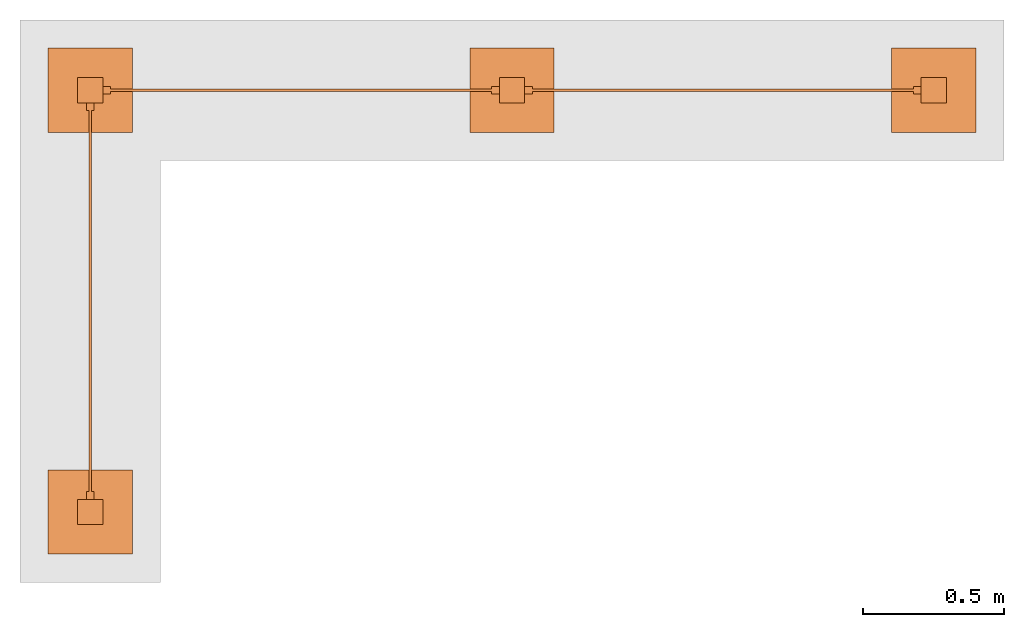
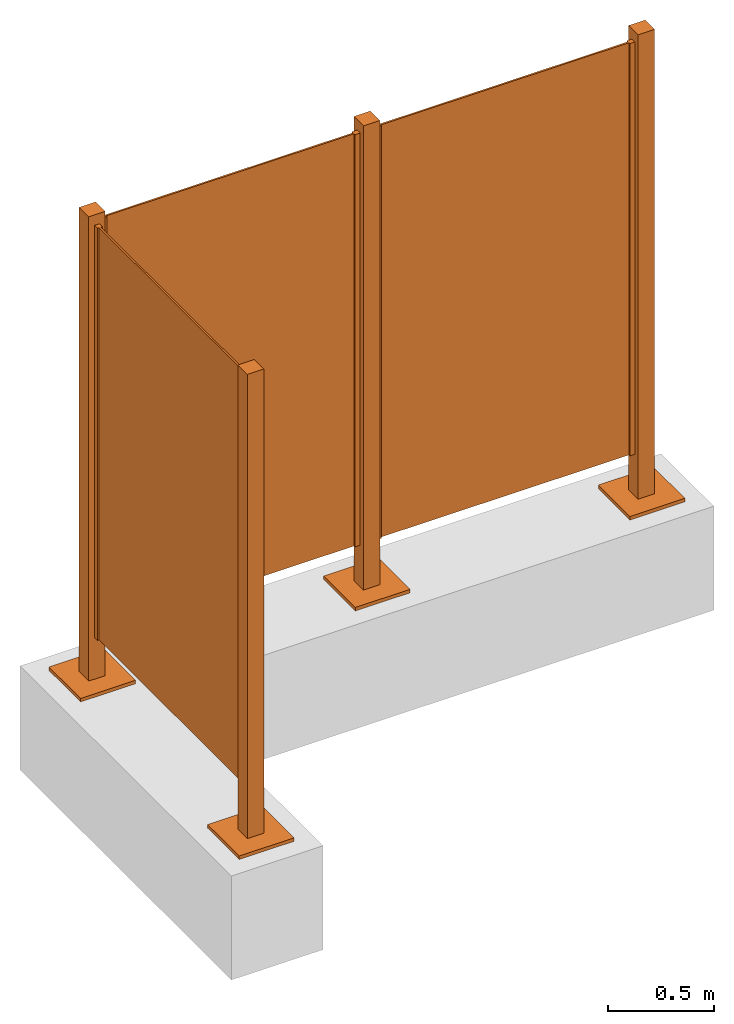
# One storey, part 2 of 2: 1 proxy.
"""IFC4 building model written with IfcOpenShell, lengths in metres."""

import ifcopenshell
import ifcopenshell.guid

model = None  # the IFC model being written
_history = None  # IfcOwnerHistory: only IFC2X3 demands one
_inside = {}  # id of a spatial element -> (the spatial element, [elements in it])
_under = {}  # id of a project, library or spatial element -> (it, [spatial elements below it])
_declared = {}  # id of a project -> (the project, [libraries it declares])
_typed = {}  # id of a type object -> (the type object, [elements of that type])
_made_of = {}  # id of a material, layer set ... -> (it, [elements and type objects made of it])


def new_model(schema):
    """Start an empty IFC model of exactly this schema.

    Asked for "IFC4X3", IfcOpenShell would pick the latest addendum, in which some entities
    have other attributes; the version numbers below select the first issue.
    IFC2X3 requires an IfcOwnerHistory on every rooted entity: one is made here for all.
    """
    global model, _history
    if schema == "IFC4X3":
        model = ifcopenshell.file(schema_version=(4, 3, 0, 0))
    else:
        model = ifcopenshell.file(schema=schema)
    _inside.clear()
    _under.clear()
    _declared.clear()
    _typed.clear()
    _made_of.clear()
    _history = None
    if model.schema == "IFC2X3":
        org = make("IfcOrganization", Name="unknown")
        user = make(
            "IfcPersonAndOrganization",
            ThePerson=make("IfcPerson", FamilyName="unknown"),
            TheOrganization=org,
        )
        app = make(
            "IfcApplication",
            ApplicationDeveloper=org,
            Version="unknown",
            ApplicationFullName="unknown",
            ApplicationIdentifier="unknown",
        )
        _history = make(
            "IfcOwnerHistory",
            OwningUser=user,
            OwningApplication=app,
            ChangeAction="ADDED",
            CreationDate=0,
        )
    return model


def make(cls, **values):
    """One entity of the class cls with the attributes given. An attribute that is None is left unset."""
    return model.create_entity(
        cls, **{name: value for name, value in values.items() if value is not None}
    )


def entity(cls, *values):
    """Any entity or typed value of the class cls, its attributes in the order of the schema. None: left unset."""
    e = model.create_entity(cls)
    for i, value in enumerate(values):
        if value is not None:
            e[i] = value
    return e


def rooted(cls, **values):
    """An entity with a GlobalId (a new one), such as an element, a storey or a relation."""
    return make(cls, GlobalId=ifcopenshell.guid.new(), OwnerHistory=_history, **values)


def si_unit(unit_type, name, prefix=None):
    """IfcSIUnit, for example si_unit("LENGTHUNIT", "METRE", prefix="MILLI")."""
    return make("IfcSIUnit", UnitType=unit_type, Prefix=prefix, Name=name)


def converted_unit(unit_type, name, factor, base, dimensions=None, offset=None):
    """IfcConversionBasedUnit, such as the inch: factor (a typed value) times the base unit."""
    return make(
        "IfcConversionBasedUnit"
        if offset is None
        else "IfcConversionBasedUnitWithOffset",
        ConversionOffset=offset,
        Dimensions=None
        if dimensions is None
        else entity("IfcDimensionalExponents", *dimensions),
        UnitType=unit_type,
        Name=name,
        ConversionFactor=make(
            "IfcMeasureWithUnit", ValueComponent=factor, UnitComponent=base
        ),
    )


def assignment(units):
    """IfcUnitAssignment: the units of a project."""
    return None if units is None else make("IfcUnitAssignment", Units=units)


def point(xyz):
    """IfcCartesianPoint."""
    return None if xyz is None else make("IfcCartesianPoint", Coordinates=xyz)


def direction(xyz):
    """IfcDirection."""
    return None if xyz is None else make("IfcDirection", DirectionRatios=xyz)


def frame(location, z_axis=None, x_axis=None):
    """IfcAxis2Placement3D, a coordinate frame: its origin and axes. An axis left out is left unset."""
    return make(
        "IfcAxis2Placement3D",
        Location=point(location),
        Axis=direction(z_axis),
        RefDirection=direction(x_axis),
    )


def frame_2d(location, x_axis=None):
    """IfcAxis2Placement2D, a coordinate frame in the plane: its origin and x axis."""
    return make(
        "IfcAxis2Placement2D", Location=point(location), RefDirection=direction(x_axis)
    )


def origin():
    """The frame at (0, 0, 0) with its axes left unset."""
    return frame((0.0, 0.0, 0.0))


def origin_2d_with_axis():
    """The frame at (0, 0) in the plane with the x axis (1, 0) written out."""
    return frame_2d((0.0, 0.0), x_axis=(1.0, 0.0))


def place(relative_to, where):
    """IfcLocalPlacement: puts the frame where relative to a parent placement (None: the world)."""
    return make(
        "IfcLocalPlacement", PlacementRelTo=relative_to, RelativePlacement=where
    )


def context(
    kind, dimensions, precision=None, world=None, true_north=None, identifier=None
):
    """IfcGeometricRepresentationContext, for example the 3D "Model" context."""
    return make(
        "IfcGeometricRepresentationContext",
        ContextIdentifier=identifier,
        ContextType=kind,
        CoordinateSpaceDimension=dimensions,
        Precision=precision,
        WorldCoordinateSystem=world,
        TrueNorth=true_north,
    )


def subcontext(parent, identifier, kind, view, scale=None):
    """IfcGeometricRepresentationSubContext, for example "Body" below "Model"."""
    return make(
        "IfcGeometricRepresentationSubContext",
        ContextIdentifier=identifier,
        ContextType=kind,
        ParentContext=parent,
        TargetScale=scale,
        TargetView=view,
    )


def project(units=None, contexts=None):
    """IfcProject with its units and contexts."""
    return rooted(
        "IfcProject",
        Name="project",
        RepresentationContexts=contexts,
        UnitsInContext=assignment(units),
    )


def spatial(cls, under=None, at=None, **own):
    """A site, building, storey or space (cls), placed at a placement, below another one or the project."""
    s = rooted(cls, ObjectPlacement=at, **own)
    if under is not None:
        _under.setdefault(under.id(), (under, []))[1].append(s)
    return s


def profile(cls, at=None, kind="AREA", **sizes):
    """A parametric profile (cls). Its sizes go by their IFC names, for example OverallWidth=200.0."""
    return make(cls, ProfileType=kind, Position=at, **sizes)


def rectangle(**sizes):
    """IfcRectangleProfileDef."""
    return profile("IfcRectangleProfileDef", **sizes)


def extrude(swept, where, along, depth):
    """IfcExtrudedAreaSolid: the profile swept, set in the frame where, extruded along a direction by depth."""
    return make(
        "IfcExtrudedAreaSolid",
        SweptArea=swept,
        Position=where,
        ExtrudedDirection=direction(along),
        Depth=depth,
    )


def shape(context_of_items, identifier, shape_type, items):
    """IfcShapeRepresentation: the items that make up one representation, for example the "Body"."""
    return make(
        "IfcShapeRepresentation",
        ContextOfItems=context_of_items,
        RepresentationIdentifier=identifier,
        RepresentationType=shape_type,
        Items=items,
    )


def source(mapping_origin, context_of_items, identifier, shape_type, items):
    """IfcRepresentationMap: a shape defined once, which mapped items show again and again."""
    return make(
        "IfcRepresentationMap",
        MappingOrigin=mapping_origin,
        MappedRepresentation=shape(context_of_items, identifier, shape_type, items),
    )


def transform(
    local_origin,
    x_axis=None,
    y_axis=None,
    z_axis=None,
    scale=None,
    scale2=None,
    scale3=None,
    uniform=True,
):
    """IfcCartesianTransformationOperator3D, or its non-uniform kind. x_axis, y_axis, z_axis: its Axis1, 2, 3."""
    if uniform:
        return make(
            "IfcCartesianTransformationOperator3D",
            Axis1=direction(x_axis),
            Axis2=direction(y_axis),
            LocalOrigin=point(local_origin),
            Scale=scale,
            Axis3=direction(z_axis),
        )
    return make(
        "IfcCartesianTransformationOperator3DnonUniform",
        Axis1=direction(x_axis),
        Axis2=direction(y_axis),
        LocalOrigin=point(local_origin),
        Scale=scale,
        Axis3=direction(z_axis),
        Scale2=scale2,
        Scale3=scale3,
    )


def mapped(mapping_source, mapping_target):
    """IfcMappedItem: shows the shape of a source again, moved by a transform."""
    return make(
        "IfcMappedItem", MappingSource=mapping_source, MappingTarget=mapping_target
    )


def material(Name=None, Category=None):
    """IfcMaterial."""
    return make("IfcMaterial", Name=Name, Category=Category)


def constituent(of_material, Name=None, Category=None, fraction=None):
    """IfcMaterialConstituent: one of the materials an element consists of."""
    return make(
        "IfcMaterialConstituent",
        Name=Name,
        Material=of_material,
        Fraction=fraction,
        Category=Category,
    )


def constituent_set(constituents=None, Name=None):
    """IfcMaterialConstituentSet."""
    return make(
        "IfcMaterialConstituentSet", Name=Name, MaterialConstituents=constituents
    )


def made_of(thing, what):
    """Note that an element or type object is made of a material, layer set ...; save() writes the relation."""
    if what is not None:
        _made_of.setdefault(what.id(), (what, []))[1].append(thing)
    return thing


def type_object(cls, material=None, **own):
    """A type object (cls), such as IfcWallType, which elements share."""
    return made_of(rooted(cls, **own), material)


def type_shapes(of_type, sources):
    """Give a type object the sources (RepresentationMaps) that its elements show as mapped items."""
    of_type.RepresentationMaps = sources


def element(
    cls,
    number,
    at=None,
    inside=None,
    cuts=None,
    type_object=None,
    material=None,
    context=None,
    identifier="Body",
    shape_type=None,
    held_by="IfcProductDefinitionShape",
    body=None,
    shapes=None,
    **own,
):
    """One element of the class cls, such as IfcWall. Its Tag is "e" and its number.

    at: its placement. inside: the storey or other place that contains it. cuts: it is an
    opening in that element (IfcRelVoidsElement). A single representation is given by context,
    identifier, shape_type and body (its items); several are given by shapes. held_by: the class
    of the entity that holds the representations. save() writes the other relations.
    """
    e = rooted(cls, Tag="e%d" % number, ObjectPlacement=at, **own)
    if body is not None:
        shapes = [shape(context, identifier, shape_type, body)]
    if shapes is not None:
        e.Representation = make(held_by, Representations=shapes)
    if inside is not None:
        _inside.setdefault(inside.id(), (inside, []))[1].append(e)
    if cuts is not None:
        rooted(
            "IfcRelVoidsElement", RelatingBuildingElement=cuts, RelatedOpeningElement=e
        )
    if type_object is not None:
        _typed.setdefault(type_object.id(), (type_object, []))[1].append(e)
    return made_of(e, material)


def aggregate(whole, parts):
    """IfcRelAggregates: a whole, such as a stair, and the parts it consists of."""
    return rooted("IfcRelAggregates", RelatingObject=whole, RelatedObjects=parts)


def save(model, path):
    """Write the relations noted so far, then the file.

    IfcRelAggregates (storeys below a building ...), IfcRelContainedInSpatialStructure (elements
    in a storey), IfcRelDefinesByType, IfcRelAssociatesMaterial and IfcRelDeclares: one each for
    every whole, place, type object, material and project.
    """
    for whole, parts in _under.values():
        aggregate(whole, parts)
    for where, things in _inside.values():
        rooted(
            "IfcRelContainedInSpatialStructure",
            RelatedElements=things,
            RelatingStructure=where,
        )
    for kind, things in _typed.values():
        rooted("IfcRelDefinesByType", RelatedObjects=things, RelatingType=kind)
    for what, things in _made_of.values():
        rooted("IfcRelAssociatesMaterial", RelatedObjects=things, RelatingMaterial=what)
    for by, libraries in _declared.values():
        rooted("IfcRelDeclares", RelatingContext=by, RelatedDefinitions=libraries)
    model.write(path)


model = new_model("IFC4")

# Units and contexts
model_context = context("Model", 3, precision=1e-05, world=origin(), true_north=direction((6.123031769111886e-17, 1.0)))
body_context = subcontext(model_context, "Body", "Model", "MODEL_VIEW")
ifc_project = project(units=[si_unit("LENGTHUNIT", "METRE"), converted_unit("PLANEANGLEUNIT", "DEGREE", entity("IfcPlaneAngleMeasure", 0.017453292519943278), si_unit("PLANEANGLEUNIT", "RADIAN"), dimensions=[0, 0, 0, 0, 0, 0, 0]), si_unit("AREAUNIT", "SQUARE_METRE")], contexts=[model_context])

# Site, building, storey
site_placement = place(None, origin())
site = spatial("IfcSite", under=ifc_project, at=site_placement, Name="Default", CompositionType="ELEMENT")
building_placement = place(site_placement, origin())
building = spatial("IfcBuilding", under=site, at=building_placement, CompositionType="ELEMENT")
storey_placement = place(building_placement, origin())
storey = spatial("IfcBuildingStorey", under=building, at=storey_placement, Name="DB_Bezugshoehe_max_Bahnsteigkante", CompositionType="ELEMENT", Elevation=0.0)

# Proxy
ifc_material_1 = material(Name="DB_Aluminium_RAL7035", Category="DB_Aluminium")
ifc_constituent_1 = constituent(ifc_material_1, Name="DB_Aluminium_RAL7035", Category="DB_Aluminium")
ifc_material_2 = material(Name="DB_ESG/VSG_klar", Category="DB_Glas")
ifc_constituent_2 = constituent(ifc_material_2, Name="DB_ESG/VSG_klar", Category="DB_Glas")
ifc_material_3 = material(Name="DB_Aluminium_RAL9007", Category="DB_Aluminium")
ifc_constituent_3 = constituent(ifc_material_3, Name="DB_Aluminium_RAL9007", Category="DB_Aluminium")
ifc_material_4 = material(Name="DB_Stahl_verzinkt_RAL9006", Category="DB_Stahl")
ifc_constituent_4 = constituent(ifc_material_4, Name="DB_Stahl_verzinkt_RAL9006", Category="DB_Stahl")
ifc_constituent_set_1 = constituent_set(constituents=[ifc_constituent_1, ifc_constituent_2, ifc_constituent_3, ifc_constituent_4])
ifc_constituent_5 = constituent(ifc_material_1, Name="DB_FAM_Volumen", Category="DB_Aluminium")
ifc_constituent_6 = constituent(ifc_material_2, Name="DB_FAM_Volumen", Category="DB_Glas")
ifc_constituent_7 = constituent(ifc_material_3, Name="DB_FAM_Volumen", Category="DB_Aluminium")
ifc_constituent_8 = constituent(ifc_material_4, Name="DB_FAM_Volumen", Category="DB_Stahl")
ifc_constituent_set_2 = constituent_set(constituents=[ifc_constituent_5, ifc_constituent_6, ifc_constituent_7, ifc_constituent_8])
building_element_proxy_type = type_object("IfcBuildingElementProxyType", Name="DB_Windschutz 2-feldrig L-Form:DB_Windschutz 2-feldrig L-Form", PredefinedType="NOTDEFINED", material=ifc_constituent_set_2)
shared_shape = source(origin(), body_context, "Body", "SweptSolid", [
    extrude(rectangle(XDim=0.027499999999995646, YDim=0.02760000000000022, at=frame_2d((0.0, -1.3530843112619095e-16), x_axis=(1.0, 0.0))), frame((1.4999999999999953, -0.5412500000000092, 0.05999999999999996), z_axis=(0.0, 0.0, 1.0), x_axis=(0.0, 1.0, 0.0)), (0.0, 0.0, 1.0), 2.3800000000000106),
    extrude(rectangle(XDim=0.027499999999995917, YDim=0.02759999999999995, at=frame_2d((-6.765421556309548e-17, -2.706168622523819e-16), x_axis=(1.0, 0.0))), frame((1.5000000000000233, 0.8412500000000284, 0.05999999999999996), z_axis=(0.0, 0.0, 1.0), x_axis=(0.0, 1.0, 0.0)), (0.0, 0.0, 1.0), 2.3800000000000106),
    extrude(rectangle(XDim=0.00999999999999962, YDim=1.3550000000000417, at=origin_2d_with_axis()), frame((1.5000000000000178, 0.15000000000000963, 0.059999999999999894), z_axis=(0.0, 0.0, 1.0), x_axis=(-1.0, 0.0, 0.0)), (0.0, 0.0, 1.0), 2.38000000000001),
    extrude(rectangle(XDim=0.027499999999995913, YDim=0.027600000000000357, at=origin_2d_with_axis()), frame((4.441250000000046, 0.9000000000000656, 0.05999999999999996), z_axis=(0.0, 0.0, 1.0), x_axis=(-1.0, 0.0, 0.0)), (0.0, 0.0, 1.0), 2.3800000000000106),
    extrude(rectangle(XDim=0.027499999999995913, YDim=0.027600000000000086, at=origin_2d_with_axis()), frame((3.0587500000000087, 0.9000000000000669, 0.05999999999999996), z_axis=(0.0, 0.0, 1.0), x_axis=(-1.0, 0.0, 0.0)), (0.0, 0.0, 1.0), 2.3800000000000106),
    extrude(rectangle(XDim=0.009999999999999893, YDim=1.3550000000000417, at=frame_2d((-6.765421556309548e-17, 0.0), x_axis=(1.0, 0.0))), frame((3.7500000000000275, 0.9000000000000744, 0.059999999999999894), z_axis=(0.0, 0.0, 1.0), x_axis=(0.0, -1.0, 0.0)), (0.0, 0.0, 1.0), 2.38000000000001),
    extrude(rectangle(XDim=0.027499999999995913, YDim=0.027600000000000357, at=origin_2d_with_axis()), frame((2.941250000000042, 0.9000000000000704, 0.05999999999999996), z_axis=(0.0, 0.0, 1.0), x_axis=(-1.0, 0.0, 0.0)), (0.0, 0.0, 1.0), 2.3800000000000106),
    extrude(rectangle(XDim=0.027499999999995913, YDim=0.027600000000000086, at=frame_2d((1.3530843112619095e-16, -1.3530843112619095e-16), x_axis=(1.0, 0.0))), frame((1.558750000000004, 0.9000000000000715, 0.05999999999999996), z_axis=(0.0, 0.0, 1.0), x_axis=(-1.0, 0.0, 0.0)), (0.0, 0.0, 1.0), 2.3800000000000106),
    extrude(rectangle(XDim=0.009999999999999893, YDim=1.3550000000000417, at=frame_2d((-6.765421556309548e-17, 0.0), x_axis=(1.0, 0.0))), frame((2.250000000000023, 0.9000000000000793, 0.059999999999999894), z_axis=(0.0, 0.0, 1.0), x_axis=(0.0, -1.0, 0.0)), (0.0, 0.0, 1.0), 2.38000000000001),
    extrude(rectangle(XDim=0.09000000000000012, YDim=0.09000000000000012, at=origin_2d_with_axis()), frame((4.500000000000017, 0.8999999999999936, 0.0), z_axis=(0.0, 0.0, 1.0), x_axis=(0.0, 1.0, 0.0)), (0.0, 0.0, 1.0), 2.5000000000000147),
    extrude(rectangle(XDim=0.08999999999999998, YDim=0.09000000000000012, at=frame_2d((-6.938893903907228e-17, 0.0), x_axis=(1.0, 0.0))), frame((3.0, 0.8999999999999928, 0.0), z_axis=(0.0, 0.0, 1.0), x_axis=(0.0, 1.0, 0.0)), (0.0, 0.0, 1.0), 2.5000000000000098),
    extrude(rectangle(XDim=0.09000000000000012, YDim=0.09000000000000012, at=origin_2d_with_axis()), frame((1.5000000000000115, 0.9000000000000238, 0.0), z_axis=(0.0, 0.0, 1.0), x_axis=(0.0, 1.0, 0.0)), (0.0, 0.0, 1.0), 2.500000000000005),
    extrude(rectangle(XDim=0.2999999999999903, YDim=0.3000000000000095, at=frame_2d((0.0, -6.938893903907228e-17), x_axis=(1.0, 0.0))), frame((1.5000000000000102, 0.8999999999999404, -0.19999999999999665), z_axis=(0.0, 0.0, 1.0), x_axis=(-1.0, 0.0, 0.0)), (0.0, 0.0, 1.0), 0.019999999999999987),
    extrude(rectangle(XDim=0.29999999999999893, YDim=0.3000000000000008, at=origin_2d_with_axis()), frame((4.500000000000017, 0.8999999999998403, -0.19999999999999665), z_axis=(0.0, 0.0, 1.0), x_axis=(-1.0, 0.0, 0.0)), (0.0, 0.0, 1.0), 0.019999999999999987),
    extrude(rectangle(XDim=0.3000000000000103, YDim=0.30000000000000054, at=frame_2d((-2.7755575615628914e-16, 0.0), x_axis=(1.0, 0.0))), frame((3.0, 0.8999999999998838, -0.19999999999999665), z_axis=(0.0, 0.0, 1.0), x_axis=(-1.0, 0.0, 0.0)), (0.0, 0.0, 1.0), 0.019999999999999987),
    extrude(rectangle(XDim=0.09000000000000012, YDim=0.08999999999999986, at=frame_2d((0.0, -1.3530843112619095e-16), x_axis=(1.0, 0.0))), frame((1.5000000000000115, -0.5999999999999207, 0.0), z_axis=(0.0, 0.0, 1.0), x_axis=(0.0, 1.0, 0.0)), (0.0, 0.0, 1.0), 2.5),
    extrude(rectangle(XDim=0.2999999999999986, YDim=0.2999999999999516, at=frame_2d((2.7755575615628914e-17, -1.3877787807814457e-16), x_axis=(1.0, 0.0))), frame((1.5000000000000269, -0.6000000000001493, -0.19999999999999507), z_axis=(0.0, 0.0, 1.0), x_axis=(0.0, -1.0, 0.0)), (0.0, 0.0, 1.0), 0.019999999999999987),
    extrude(rectangle(XDim=0.09000000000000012, YDim=0.09000000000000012, at=origin_2d_with_axis()), frame((4.500000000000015, 0.9000000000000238, -0.18000000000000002), z_axis=(0.0, 0.0, 1.0), x_axis=(0.0, 1.0, 0.0)), (0.0, 0.0, 1.0), 0.1799999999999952),
    extrude(rectangle(XDim=0.09000000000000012, YDim=0.09000000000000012, at=origin_2d_with_axis()), frame((3.0, 0.9000000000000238, -0.18000000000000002), z_axis=(0.0, 0.0, 1.0), x_axis=(0.0, 1.0, 0.0)), (0.0, 0.0, 1.0), 0.1800000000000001),
    extrude(rectangle(XDim=0.08999999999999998, YDim=0.0899999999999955, at=frame_2d((-6.938893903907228e-17, -1.3530843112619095e-16), x_axis=(1.0, 0.0))), frame((1.5000000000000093, 0.8999999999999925, -0.18000000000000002), z_axis=(0.0, 0.0, 1.0), x_axis=(0.0, 1.0, 0.0)), (0.0, 0.0, 1.0), 0.1799999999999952),
    extrude(rectangle(XDim=0.09000000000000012, YDim=0.08999999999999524, at=origin_2d_with_axis()), frame((1.5000000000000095, -0.5999999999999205, -0.18000000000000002), z_axis=(0.0, 0.0, 1.0), x_axis=(0.0, 1.0, 0.0)), (0.0, 0.0, 1.0), 0.1799999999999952),
])
type_shapes(building_element_proxy_type, [shared_shape])
proxy_placement = place(storey_placement, frame((-1.500000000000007, 0.5999999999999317, 0.8000000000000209)))
element("IfcBuildingElementProxy", 1, at=proxy_placement, inside=storey, type_object=building_element_proxy_type, material=ifc_constituent_set_1, Name="DB_Windschutz 2-feldrig L-Form:DB_Windschutz 2-feldrig L-Form", ObjectType="DB_Windschutz 2-feldrig L-Form:DB_Windschutz 2-feldrig L-Form", PredefinedType="NOTDEFINED", context=body_context, shape_type="MappedRepresentation", body=[
    mapped(shared_shape, transform((0.0, 0.0, 0.0), scale=1.0)),
])

save(model, "model.ifc")
